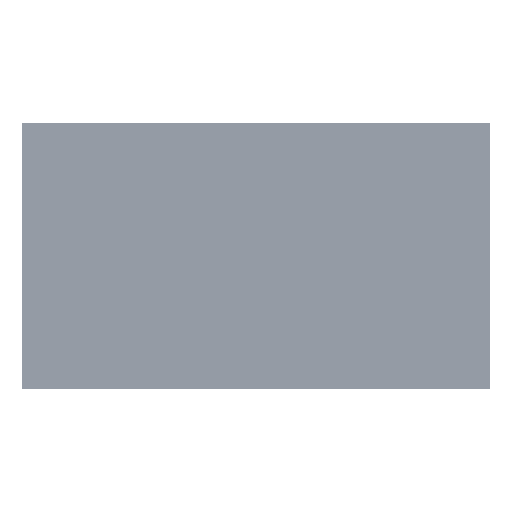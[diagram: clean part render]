
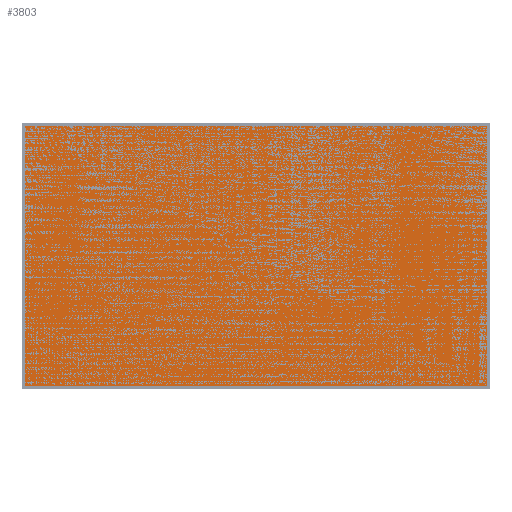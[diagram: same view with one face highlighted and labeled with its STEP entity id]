
A CAD part, top view. The second image highlights one B-rep face of the part: STEP entity #3803.
In plain terms, the highlighted planar face has unit normal (0, 0, 1).
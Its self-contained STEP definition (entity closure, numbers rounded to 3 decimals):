
#3649=DIRECTION('',(-0.707,-0.707,0.));
#3650=VECTOR('',#3649,0.566);
#3651=CARTESIAN_POINT('',(831.17,-469.78,0.5));
#3652=LINE('',#3651,#3650);
#3656=DIRECTION('',(-0.707,0.707,0.));
#3657=VECTOR('',#3656,0.566);
#3658=CARTESIAN_POINT('',(-830.77,-470.18,0.5));
#3659=LINE('',#3658,#3657);
#3663=DIRECTION('',(0.,-1.,0.));
#3664=VECTOR('',#3663,939.555);
#3665=CARTESIAN_POINT('',(-831.17,469.775,0.5));
#3666=LINE('',#3665,#3664);
#3684=DIRECTION('',(-1.,0.,0.));
#3685=VECTOR('',#3684,1662.34);
#3686=CARTESIAN_POINT('',(831.17,469.775,0.5));
#3687=LINE('',#3686,#3685);
#3698=DIRECTION('',(0.,1.,0.));
#3699=VECTOR('',#3698,939.555);
#3700=CARTESIAN_POINT('',(831.17,-469.78,0.5));
#3701=LINE('',#3700,#3699);
#3712=DIRECTION('',(1.,0.,0.));
#3713=VECTOR('',#3712,1661.54);
#3714=CARTESIAN_POINT('',(-830.77,-470.18,0.5));
#3715=LINE('',#3714,#3713);
#3738=CARTESIAN_POINT('',(-830.77,-470.18,0.5));
#3739=CARTESIAN_POINT('',(-831.17,-469.78,0.5));
#3740=VERTEX_POINT('',#3738);
#3741=VERTEX_POINT('',#3739);
#3742=CARTESIAN_POINT('',(-831.17,469.775,0.5));
#3743=VERTEX_POINT('',#3742);
#3744=CARTESIAN_POINT('',(831.17,469.775,0.5));
#3745=VERTEX_POINT('',#3744);
#3746=CARTESIAN_POINT('',(831.17,-469.78,0.5));
#3747=VERTEX_POINT('',#3746);
#3748=CARTESIAN_POINT('',(830.77,-470.18,0.5));
#3749=VERTEX_POINT('',#3748);
#3785=CARTESIAN_POINT('',(0.,0.,0.5));
#3786=DIRECTION('',(0.,0.,1.));
#3787=DIRECTION('',(-1.,0.,0.));
#3788=AXIS2_PLACEMENT_3D('',#3785,#3786,#3787);
#3789=PLANE('',#3788);
#3791=ORIENTED_EDGE('',*,*,#3790,.F.);
#3793=ORIENTED_EDGE('',*,*,#3792,.F.);
#3795=ORIENTED_EDGE('',*,*,#3794,.F.);
#3797=ORIENTED_EDGE('',*,*,#3796,.T.);
#3799=ORIENTED_EDGE('',*,*,#3798,.F.);
#3800=ORIENTED_EDGE('',*,*,#3775,.T.);
#3801=EDGE_LOOP('',(#3791,#3793,#3795,#3797,#3799,#3800));
#3802=FACE_OUTER_BOUND('',#3801,.F.);
#3803=ADVANCED_FACE('',(#3802),#3789,.T.);
#3775=EDGE_CURVE('',#3740,#3741,#3659,.T.);
#3790=EDGE_CURVE('',#3743,#3741,#3666,.T.);
#3792=EDGE_CURVE('',#3745,#3743,#3687,.T.);
#3794=EDGE_CURVE('',#3747,#3745,#3701,.T.);
#3796=EDGE_CURVE('',#3747,#3749,#3652,.T.);
#3798=EDGE_CURVE('',#3740,#3749,#3715,.T.);
